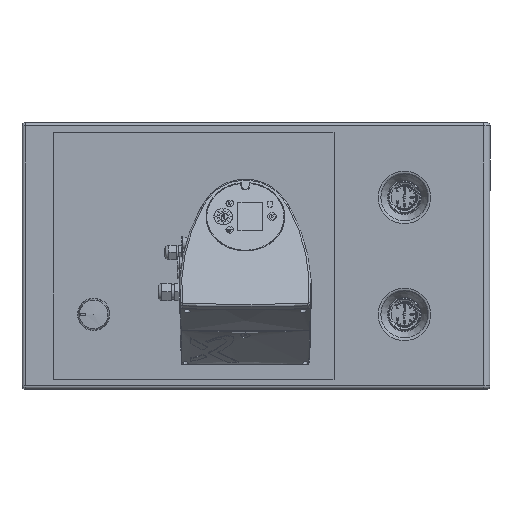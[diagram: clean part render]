
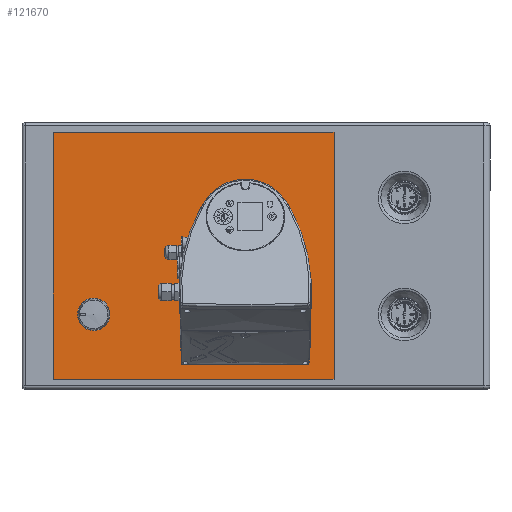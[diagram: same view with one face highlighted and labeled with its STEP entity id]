
A CAD part, top view. The second image highlights one B-rep face of the part: STEP entity #121670.
In plain terms, the highlighted planar face has unit normal (0, 0, 1).
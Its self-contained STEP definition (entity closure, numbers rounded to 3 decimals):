
#121135=CARTESIAN_POINT('',(-415.4,-180.,135.));
#121136=VERTEX_POINT('',#121135);
#121137=CARTESIAN_POINT('',(-440.4,-180.,135.));
#121138=DIRECTION('',(0.0,0.0,-1.0));
#121139=DIRECTION('',(-1.0,0.0,0.0));
#121140=AXIS2_PLACEMENT_3D('',#121137,#121138,#121139);
#121141=CIRCLE('',#121140,25.0);
#121142=EDGE_CURVE('',#121136,#121136,#121141,.T.);
#121162=CARTESIAN_POINT('',(-70.7,-280.,135.));
#121163=VERTEX_POINT('',#121162);
#121170=CARTESIAN_POINT('',(-502.7,-280.,135.));
#121171=VERTEX_POINT('',#121170);
#121172=CARTESIAN_POINT('',(-70.7,-280.,135.));
#121173=DIRECTION('',(-1.0,0.0,0.0));
#121174=VECTOR('',#121173,432.0);
#121175=LINE('',#121172,#121174);
#121176=EDGE_CURVE('',#121163,#121171,#121175,.T.);
#121597=CARTESIAN_POINT('',(-502.7,100.,135.));
#121598=VERTEX_POINT('',#121597);
#121605=CARTESIAN_POINT('',(-70.7,100.,135.));
#121606=VERTEX_POINT('',#121605);
#121607=CARTESIAN_POINT('',(-70.7,100.,135.));
#121608=DIRECTION('',(-1.0,0.0,0.0));
#121609=VECTOR('',#121608,432.);
#121610=LINE('',#121607,#121609);
#121611=EDGE_CURVE('',#121606,#121598,#121610,.T.);
#121629=CARTESIAN_POINT('',(-70.7,-280.,135.));
#121630=DIRECTION('',(0.0,1.0,0.0));
#121631=VECTOR('',#121630,380.);
#121632=LINE('',#121629,#121631);
#121633=EDGE_CURVE('',#121163,#121606,#121632,.T.);
#121646=CARTESIAN_POINT('',(-502.7,100.,135.));
#121647=DIRECTION('',(0.0,-1.0,0.0));
#121648=VECTOR('',#121647,380.0);
#121649=LINE('',#121646,#121648);
#121650=EDGE_CURVE('',#121598,#121171,#121649,.T.);
#121656=CARTESIAN_POINT('',(-286.7,-87.5,135.));
#121657=DIRECTION('',(0.0,0.0,-1.0));
#121658=DIRECTION('',(-1.0,0.0,0.0));
#121659=AXIS2_PLACEMENT_3D('',#121656,#121657,#121658);
#121660=PLANE('',#121659);
#121661=ORIENTED_EDGE('',*,*,#121650,.T.);
#121662=ORIENTED_EDGE('',*,*,#121176,.F.);
#121663=ORIENTED_EDGE('',*,*,#121633,.T.);
#121664=ORIENTED_EDGE('',*,*,#121611,.T.);
#121665=EDGE_LOOP('',(#121661,#121662,#121663,#121664));
#121666=FACE_OUTER_BOUND('',#121665,.T.);
#121667=ORIENTED_EDGE('',*,*,#121142,.T.);
#121668=EDGE_LOOP('',(#121667));
#121669=FACE_BOUND('',#121668,.T.);
#121670=ADVANCED_FACE('',(#121666,#121669),#121660,.F.);
